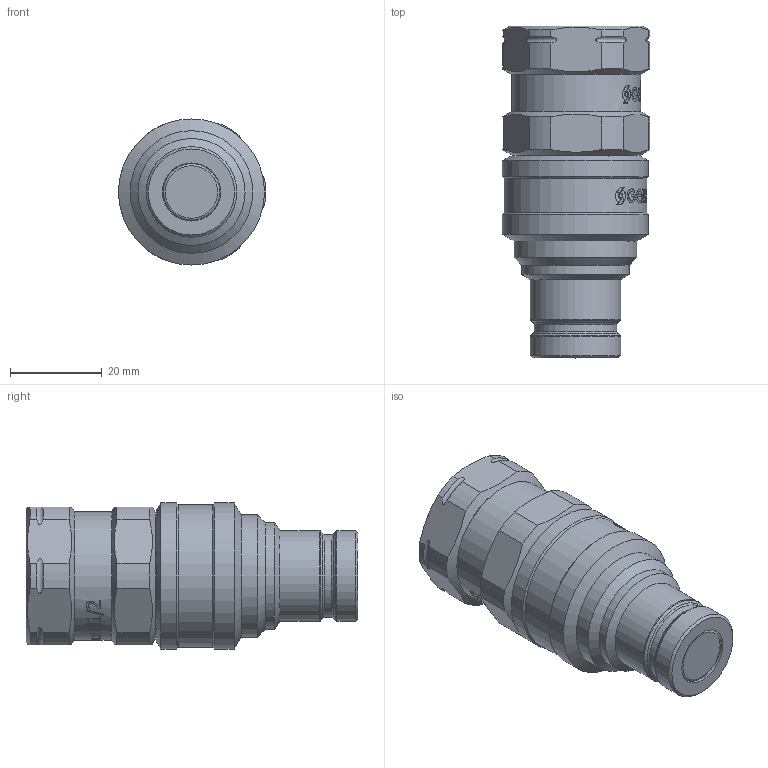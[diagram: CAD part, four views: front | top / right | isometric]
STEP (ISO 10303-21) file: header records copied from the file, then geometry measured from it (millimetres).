
FILE_DESCRIPTION(/* description */ (''),/* implementation_level */ '2;1');
FILE_NAME(/* name */ 'NC05N030000.stp',/* time_stamp */ '2024-08-09T15:15:07+02:00',/* author */ ('nicholas.facchinetti'),/* organization */ (''),/* preprocessor_version */ 'ST-DEVELOPER v19.2',/* originating_system */ 'Autodesk Inventor 2024',/* authorisation */ '');
FILE_SCHEMA (('AUTOMOTIVE_DESIGN { 1 0 10303 214 3 1 1 }'));
Length unit declared in the file: millimetre
Products named in the file (1): Parte12
Bounding box: 32.03 x 72.2 x 31.8 mm (x, y, z)
Volume: 37433.7 mm3; surface area: 9639.4 mm2
Topology: 2 solids, 2 shells, 1069 faces, 3051 edges, 2024 vertices
Faces by surface type: bspline 691, plane 263, cylinder 84, cone 20, torus 11
Full cylindrical faces by diameter (mm): 12.65 x1, 14.5 x1, 17.475 x1, 18 x1, 18.034 x1, 19 x1, 19.75 x2, 23.3 x1, 26 x1, 26.7 x1, 28 x1, 31.1 x1, 31.8 x2
Entity records: 46223 total; most frequent: CARTESIAN_POINT 21820, ORIENTED_EDGE 6102, EDGE_CURVE 3051, DIRECTION 2724, VERTEX_POINT 2024, B_SPLINE_CURVE_WITH_KNOTS 1446, LINE 1188, VECTOR 1188
